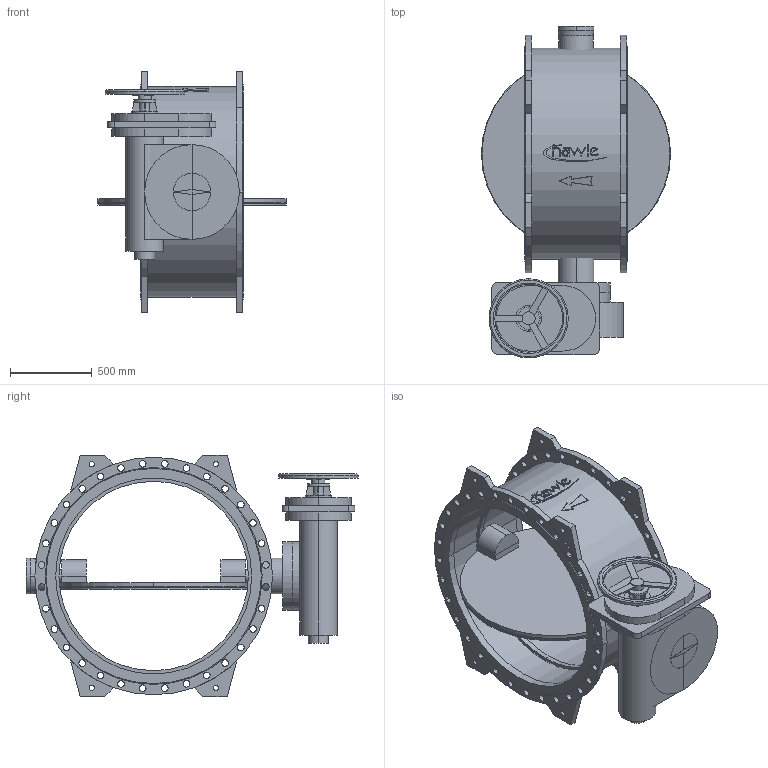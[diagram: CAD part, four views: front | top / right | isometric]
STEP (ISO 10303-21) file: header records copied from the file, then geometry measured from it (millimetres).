
FILE_DESCRIPTION(('STEP AP214'),'1');
FILE_NAME('S:/EK/USER/CAT6/3DHomepage_27-04-2012/neu_08-01-2013/9881K/9881K_PN10_DN1200_7800.STP','2013-03-11T15:27:13',(' '),(' '),'Spatial InterOp 3D',' ',' ');
FILE_SCHEMA(('automotive_design'));
Length unit declared in the file: millimetre
Products named in the file (52): 3D-Objekt
Bounding box: 1158 x 2033 x 1476 mm (x, y, z)
Volume: 383036214.1 mm3; surface area: 17037213 mm2
Topology: 52 solids, 52 shells, 507 faces, 1202 edges, 802 vertices
Faces by surface type: cylinder 265, plane 232, cone 6, torus 4
Entity records: 20442 total; most frequent: DIRECTION 2892, CARTESIAN_POINT 2563, ORIENTED_EDGE 2404, EDGE_CURVE 1202, AXIS2_PLACEMENT_3D 1131, VERTEX_POINT 802, EDGE_LOOP 672, LINE 630
